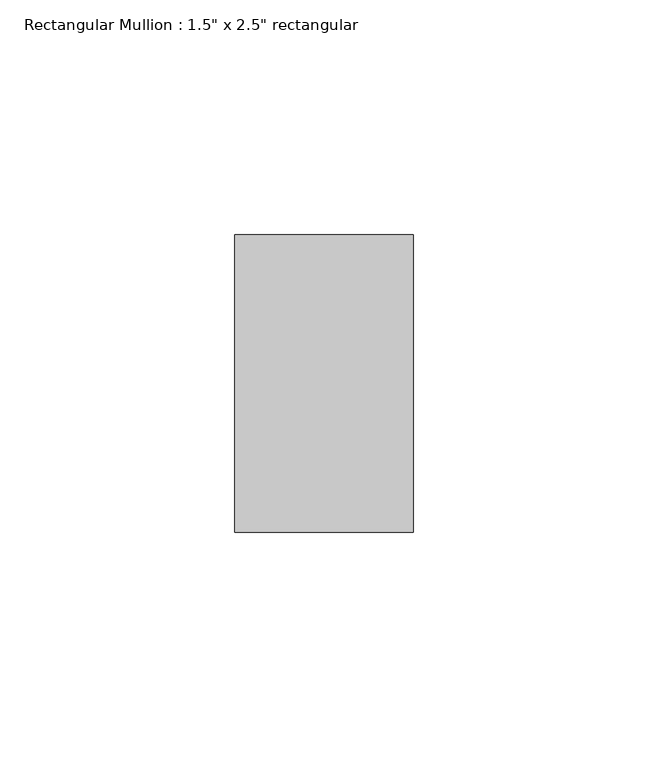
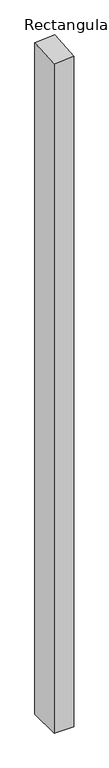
"""IFC4 building model written with IfcOpenShell, lengths in millimetres: member geometry."""

from ifc_helpers import new_model, si_unit, origin, place, context, project, spatial, faceted_brep, source, transform, mapped, element, save


def member_cc67d64b(model_context):
    return source(origin(), model_context, "Body", "Brep", [
        faceted_brep([(19.05, 31.75, -1358.4690943), (19.05, -31.75, -1358.4690943), (-19.05, -31.75, -1358.4690943), (-19.05, 31.75, -1358.4690943), (-19.05, 31.75, 0.9407985), (19.05, 31.75, 3.8062662), (-19.05, -31.75, -3.8062662), (19.05, -31.75, -0.9407985)], [[[0, 1, 2, 3]], [[4, 5, 0, 3]], [[6, 4, 3, 2]], [[7, 6, 2, 1]], [[5, 7, 1, 0]], [[5, 4, 6, 7]]]),
    ])


if __name__ == "__main__":
    model = new_model("IFC4")
    model_context = context("Model", 3, world=origin())
    ifc_project = project(units=[si_unit("LENGTHUNIT", "METRE", prefix="MILLI")], contexts=[model_context])
    site = spatial("IfcSite", under=ifc_project)
    building = spatial("IfcBuilding", under=site)
    placement = place(None, origin())
    member_shape = member_cc67d64b(model_context)
    element("IfcMember", 1, ObjectType="Rectangular Mullion : 1.5\" x 2.5\" rectangular", at=placement, inside=building, context=model_context, shape_type="MappedRepresentation", body=[
        mapped(member_shape, transform((0.0, 0.0, 0.0), x_axis=(1.0, 0.0, 0.0), y_axis=(0.0, 1.0, 0.0), z_axis=(0.0, 0.0, 1.0))),
    ])
    save(model, "model.ifc")
